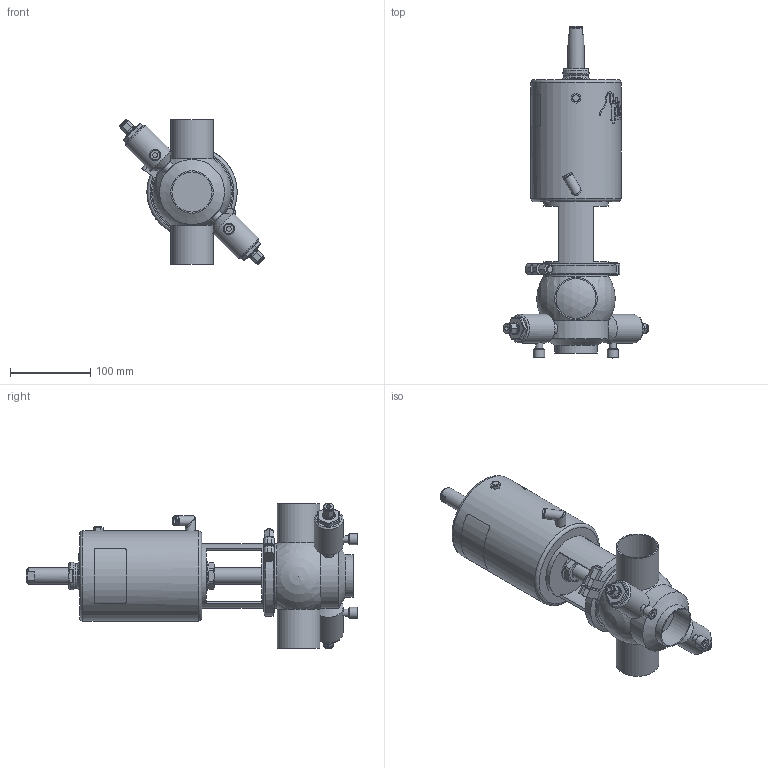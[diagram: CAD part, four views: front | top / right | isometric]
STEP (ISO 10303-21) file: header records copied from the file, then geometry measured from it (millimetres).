
FILE_DESCRIPTION (( 'STEP AP214' ), '1' );
FILE_NAME ('INNOVA D T W DIN 050 T2 AS NC_10.246.16.0002.STEP', '2024-08-08T09:12:55', ( '' ), ( '' ), 'SwSTEP 2.0', 'SolidWorks 2023', '' );
FILE_SCHEMA (( 'AUTOMOTIVE_DESIGN' ));
Length unit declared in the file: millimetre
Products named in the file (5): 10.246.15.0002_DIN 050; 10.240.15.0010_DN 050; 10.240.15.0014_T2 AS P0; INNOVA D T W DIN 050 T2 AS NC_10.246.16.0002; 10.240.15.0001_DN 050
Assembly tree (4 placements, depth 2):
  INNOVA D T W DIN 050 T2 AS NC_10.246.16.0002
    10.246.15.0002_DIN 050
    10.240.15.0010_DN 050
    10.240.15.0014_T2 AS P0
    10.240.15.0001_DN 050
Bounding box: 181.87 x 414 x 181.87 mm (x, y, z)
Volume: 2380091.1 mm3; surface area: 235571.5 mm2
Topology: 4 solids, 4 shells, 424 faces, 1059 edges, 685 vertices
Faces by surface type: plane 225, cylinder 85, bspline 80, cone 27, torus 4, sphere 3
Full cylindrical faces by diameter (mm): 6 x4, 6.15 x1, 8 x3, 8.5 x1, 9 x2, 10 x2, 10.5 x1, 12 x4, 12.5 x3, 14 x4, 15 x2, 16 x1, 20 x2, 31 x1, 34.5 x2, 36 x2, 36.5 x1, 50 x3, 53 x3, 81 x3, 93 x2, 112.5 x1
Entity records: 23039 total; most frequent: CARTESIAN_POINT 12033, ORIENTED_EDGE 1928, DIRECTION 1611, EDGE_CURVE 964, VERTEX_POINT 667, AXIS2_PLACEMENT_3D 607, EDGE_LOOP 551, FACE_OUTER_BOUND 479
